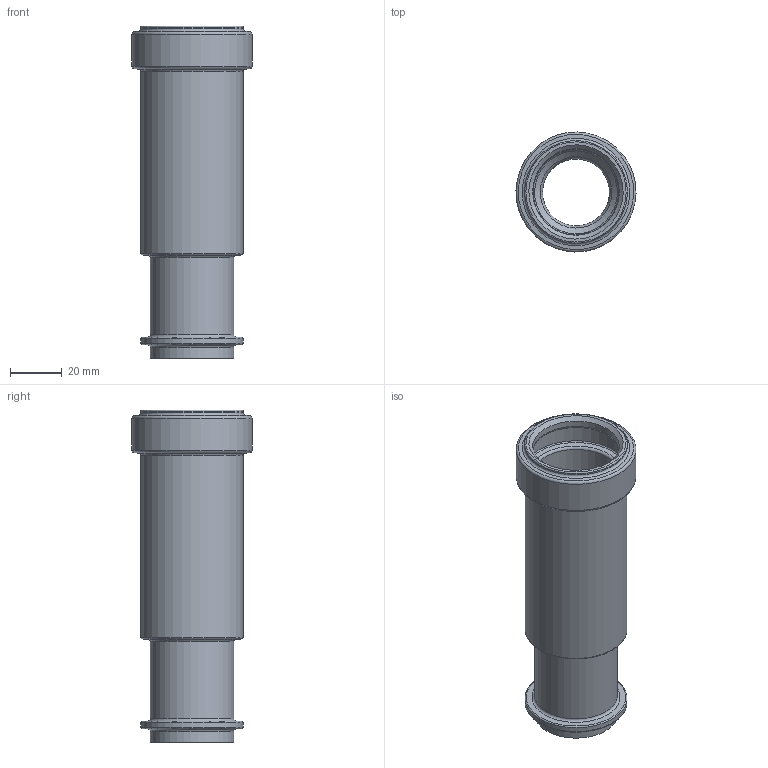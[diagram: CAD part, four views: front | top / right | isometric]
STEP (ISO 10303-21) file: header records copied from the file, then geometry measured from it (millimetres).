
FILE_DESCRIPTION(/* description */ (''),/* implementation_level */ '2;1');
FILE_NAME(/* name */ 'C:\Planerdaten\Export PLA\379.791.16.1\stp\379791.stp',/* time_stamp */ '2020-07-07T08:52:08+02:00',/* author */ ('JANAN'),/* organization */ (''),/* preprocessor_version */ 'ST-DEVELOPER v16.13',/* originating_system */ 'Autodesk Inventor 2018',/* authorisation */ '');
FILE_SCHEMA (('AUTOMOTIVE_DESIGN { 1 0 10303 214 3 1 1 }'));
Length unit declared in the file: millimetre
Products named in the file (1): Langmuffe m/Doppelbund d32
Bounding box: 46.39 x 46.39 x 128.33 mm (x, y, z)
Volume: 48676.8 mm3; surface area: 30877.8 mm2
Topology: 1 solids, 1 shells, 38 faces, 85 edges, 49 vertices
Faces by surface type: torus 17, cylinder 10, cone 9, plane 2
Full cylindrical faces by diameter (mm): 25.85 x1, 32.15 x2, 33.2 x1, 33.45 x1, 39.5 x2, 39.75 x1, 40.1 x1, 46.4 x1
Entity records: 839 total; most frequent: DIRECTION 154, CARTESIAN_POINT 115, AXIS2_PLACEMENT_3D 77, EDGE_LOOP 76, ORIENTED_EDGE 76, STYLED_ITEM 39, FACE_BOUND 38, FACE_OUTER_BOUND 38
